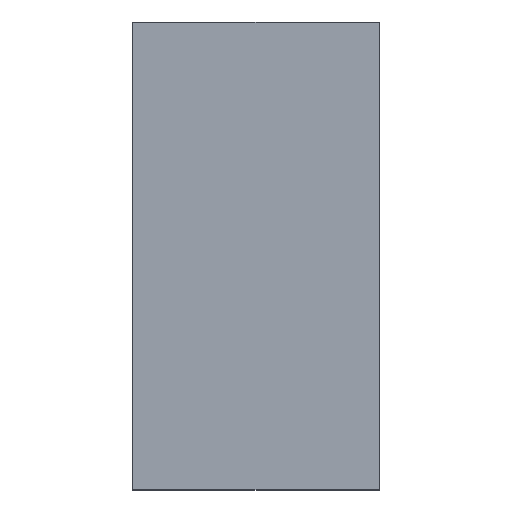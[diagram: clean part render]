
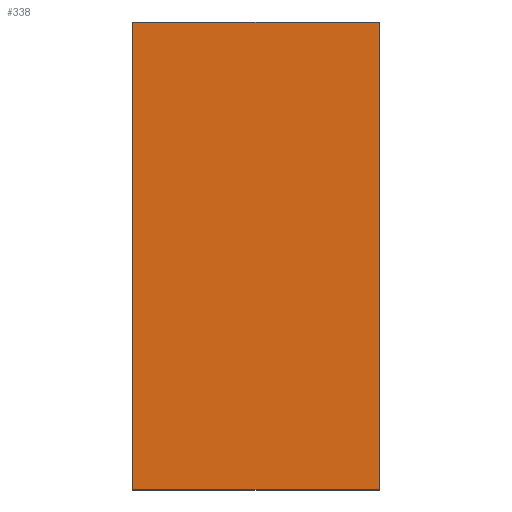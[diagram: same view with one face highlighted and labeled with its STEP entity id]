
A CAD part, top view. The second image highlights one B-rep face of the part: STEP entity #338.
In plain terms, the highlighted planar face has unit normal (0, 0, 1).
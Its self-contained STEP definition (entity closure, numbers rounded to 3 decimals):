
#24 = VERTEX_POINT('',#25);
#25 = CARTESIAN_POINT('',(57.5,-126.913,154.));
#32 = PLANE('',#33);
#33 = AXIS2_PLACEMENT_3D('',#34,#35,#36);
#34 = CARTESIAN_POINT('',(57.5,-126.913,145.));
#35 = DIRECTION('',(1.,0.,-0.));
#36 = DIRECTION('',(0.,0.,1.));
#44 = PLANE('',#45);
#45 = AXIS2_PLACEMENT_3D('',#46,#47,#48);
#46 = CARTESIAN_POINT('',(57.5,-126.913,145.));
#47 = DIRECTION('',(-0.,1.,0.));
#48 = DIRECTION('',(0.,0.,1.));
#85 = VERTEX_POINT('',#86);
#86 = CARTESIAN_POINT('',(57.5,-88.913,154.));
#100 = PLANE('',#101);
#101 = AXIS2_PLACEMENT_3D('',#102,#103,#104);
#102 = CARTESIAN_POINT('',(57.5,-88.913,145.));
#103 = DIRECTION('',(-0.,1.,0.));
#104 = DIRECTION('',(0.,0.,1.));
#112 = EDGE_CURVE('',#24,#85,#113,.T.);
#113 = SURFACE_CURVE('',#114,(#118,#125),.PCURVE_S1.);
#114 = LINE('',#115,#116);
#115 = CARTESIAN_POINT('',(57.5,-126.913,154.));
#116 = VECTOR('',#117,1.);
#117 = DIRECTION('',(-0.,1.,0.));
#118 = PCURVE('',#32,#119);
#119 = DEFINITIONAL_REPRESENTATION('',(#120),#124);
#120 = LINE('',#121,#122);
#121 = CARTESIAN_POINT('',(9.,0.));
#122 = VECTOR('',#123,1.);
#123 = DIRECTION('',(0.,-1.));
#124 = ( GEOMETRIC_REPRESENTATION_CONTEXT(2) 
PARAMETRIC_REPRESENTATION_CONTEXT() REPRESENTATION_CONTEXT('2D SPACE',''
  ) );
#125 = PCURVE('',#126,#131);
#126 = PLANE('',#127);
#127 = AXIS2_PLACEMENT_3D('',#128,#129,#130);
#128 = CARTESIAN_POINT('',(57.5,-126.913,154.));
#129 = DIRECTION('',(0.,0.,1.));
#130 = DIRECTION('',(1.,0.,-0.));
#131 = DEFINITIONAL_REPRESENTATION('',(#132),#136);
#132 = LINE('',#133,#134);
#133 = CARTESIAN_POINT('',(0.,0.));
#134 = VECTOR('',#135,1.);
#135 = DIRECTION('',(0.,1.));
#136 = ( GEOMETRIC_REPRESENTATION_CONTEXT(2) 
PARAMETRIC_REPRESENTATION_CONTEXT() REPRESENTATION_CONTEXT('2D SPACE',''
  ) );
#144 = VERTEX_POINT('',#145);
#145 = CARTESIAN_POINT('',(77.5,-126.913,154.));
#152 = PLANE('',#153);
#153 = AXIS2_PLACEMENT_3D('',#154,#155,#156);
#154 = CARTESIAN_POINT('',(77.5,-126.913,145.));
#155 = DIRECTION('',(1.,0.,-0.));
#156 = DIRECTION('',(0.,0.,1.));
#195 = VERTEX_POINT('',#196);
#196 = CARTESIAN_POINT('',(77.5,-88.913,154.));
#217 = EDGE_CURVE('',#144,#195,#218,.T.);
#218 = SURFACE_CURVE('',#219,(#223,#230),.PCURVE_S1.);
#219 = LINE('',#220,#221);
#220 = CARTESIAN_POINT('',(77.5,-126.913,154.));
#221 = VECTOR('',#222,1.);
#222 = DIRECTION('',(-0.,1.,0.));
#223 = PCURVE('',#152,#224);
#224 = DEFINITIONAL_REPRESENTATION('',(#225),#229);
#225 = LINE('',#226,#227);
#226 = CARTESIAN_POINT('',(9.,0.));
#227 = VECTOR('',#228,1.);
#228 = DIRECTION('',(0.,-1.));
#229 = ( GEOMETRIC_REPRESENTATION_CONTEXT(2) 
PARAMETRIC_REPRESENTATION_CONTEXT() REPRESENTATION_CONTEXT('2D SPACE',''
  ) );
#230 = PCURVE('',#126,#231);
#231 = DEFINITIONAL_REPRESENTATION('',(#232),#236);
#232 = LINE('',#233,#234);
#233 = CARTESIAN_POINT('',(20.,0.));
#234 = VECTOR('',#235,1.);
#235 = DIRECTION('',(0.,1.));
#236 = ( GEOMETRIC_REPRESENTATION_CONTEXT(2) 
PARAMETRIC_REPRESENTATION_CONTEXT() REPRESENTATION_CONTEXT('2D SPACE',''
  ) );
#263 = EDGE_CURVE('',#24,#144,#264,.T.);
#264 = SURFACE_CURVE('',#265,(#269,#276),.PCURVE_S1.);
#265 = LINE('',#266,#267);
#266 = CARTESIAN_POINT('',(57.5,-126.913,154.));
#267 = VECTOR('',#268,1.);
#268 = DIRECTION('',(1.,0.,-0.));
#269 = PCURVE('',#44,#270);
#270 = DEFINITIONAL_REPRESENTATION('',(#271),#275);
#271 = LINE('',#272,#273);
#272 = CARTESIAN_POINT('',(9.,0.));
#273 = VECTOR('',#274,1.);
#274 = DIRECTION('',(0.,1.));
#275 = ( GEOMETRIC_REPRESENTATION_CONTEXT(2) 
PARAMETRIC_REPRESENTATION_CONTEXT() REPRESENTATION_CONTEXT('2D SPACE',''
  ) );
#276 = PCURVE('',#126,#277);
#277 = DEFINITIONAL_REPRESENTATION('',(#278),#282);
#278 = LINE('',#279,#280);
#279 = CARTESIAN_POINT('',(0.,0.));
#280 = VECTOR('',#281,1.);
#281 = DIRECTION('',(1.,0.));
#282 = ( GEOMETRIC_REPRESENTATION_CONTEXT(2) 
PARAMETRIC_REPRESENTATION_CONTEXT() REPRESENTATION_CONTEXT('2D SPACE',''
  ) );
#310 = EDGE_CURVE('',#85,#195,#311,.T.);
#311 = SURFACE_CURVE('',#312,(#316,#323),.PCURVE_S1.);
#312 = LINE('',#313,#314);
#313 = CARTESIAN_POINT('',(57.5,-88.913,154.));
#314 = VECTOR('',#315,1.);
#315 = DIRECTION('',(1.,0.,-0.));
#316 = PCURVE('',#100,#317);
#317 = DEFINITIONAL_REPRESENTATION('',(#318),#322);
#318 = LINE('',#319,#320);
#319 = CARTESIAN_POINT('',(9.,0.));
#320 = VECTOR('',#321,1.);
#321 = DIRECTION('',(0.,1.));
#322 = ( GEOMETRIC_REPRESENTATION_CONTEXT(2) 
PARAMETRIC_REPRESENTATION_CONTEXT() REPRESENTATION_CONTEXT('2D SPACE',''
  ) );
#323 = PCURVE('',#126,#324);
#324 = DEFINITIONAL_REPRESENTATION('',(#325),#329);
#325 = LINE('',#326,#327);
#326 = CARTESIAN_POINT('',(0.,38.));
#327 = VECTOR('',#328,1.);
#328 = DIRECTION('',(1.,0.));
#329 = ( GEOMETRIC_REPRESENTATION_CONTEXT(2) 
PARAMETRIC_REPRESENTATION_CONTEXT() REPRESENTATION_CONTEXT('2D SPACE',''
  ) );
#338 = ADVANCED_FACE('',(#339),#126,.T.);
#339 = FACE_BOUND('',#340,.T.);
#340 = EDGE_LOOP('',(#341,#342,#343,#344));
#341 = ORIENTED_EDGE('',*,*,#112,.F.);
#342 = ORIENTED_EDGE('',*,*,#263,.T.);
#343 = ORIENTED_EDGE('',*,*,#217,.T.);
#344 = ORIENTED_EDGE('',*,*,#310,.F.);
